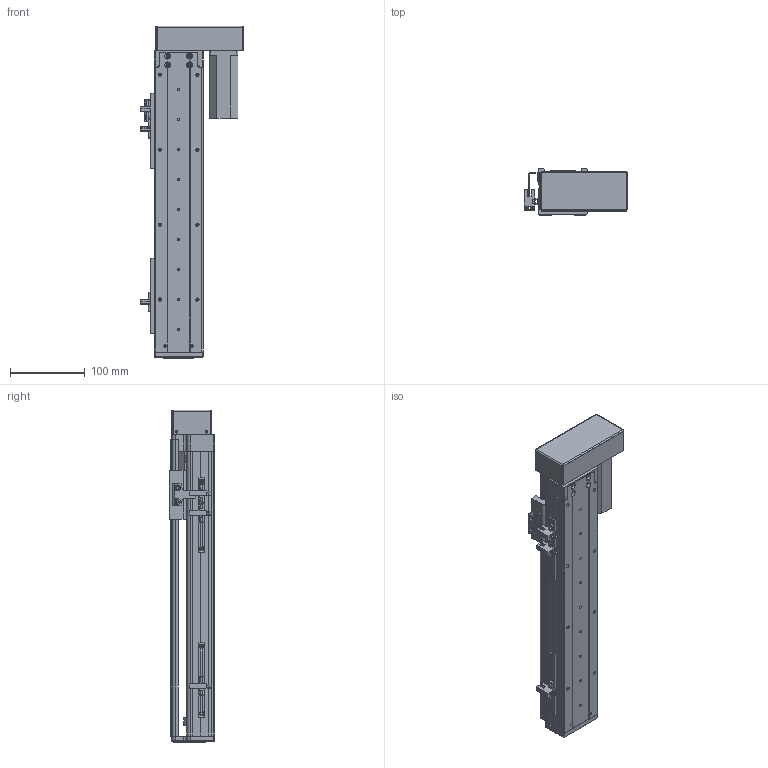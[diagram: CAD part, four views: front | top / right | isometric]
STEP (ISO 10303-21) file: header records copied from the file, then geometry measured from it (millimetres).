
FILE_DESCRIPTION (( 'STEP AP203' ), '1' );
FILE_NAME ('RY60-L1210-300-RK.SLDASM_250.step', '2021-02-20T06:52:30', ( '盈信电脑' ), ( '东莞市道滘镇水果街19号' ), 'SwSTEP 2.0', 'SolidWorks 2012', '' );
FILE_SCHEMA (( 'CONFIG_CONTROL_DESIGN' ));
Length unit declared in the file: millimetre
Products named in the file (13): RY60-L1210-300-RK.SLDASM_250; 覜茼ん672; 672嫖萇羲壽假蚾釱; RY60酘衵殏萇儂欶; 侂狟100W; RY80俋离覜茼え; RY60转折电机端支撑座; RY60左右折电机安装板; 滅袉蝶18-10; RY60綴裔啣; RY60-300倰第菁釱-RK_250; RY60臏賑輸; RY60-300倰第裔啣-RK_250
Assembly tree (18 placements, depth 2):
  RY60-L1210-300-RK.SLDASM_250
    RY60-300倰第菁釱-RK_250
    RY60臏賑輸
    RY60-300倰第裔啣-RK_250
    RY60綴裔啣
    滅袉蝶18-10  x4
    RY60转折电机端支撑座
    RY60左右折电机安装板
    侂狟100W
    RY60酘衵殏萇儂欶
    RY80俋离覜茼え
    672嫖萇羲壽假蚾釱  x2
    覜茼ん672  x3
Bounding box: 137.9 x 61 x 443 mm (x, y, z)
Volume: 680469.8 mm3; surface area: 333861.6 mm2
Topology: 18 solids, 18 shells, 1382 faces, 3836 edges, 2458 vertices
Faces by surface type: plane 697, cylinder 566, cone 102, bspline 17
Entity records: 40447 total; most frequent: CARTESIAN_POINT 9281, ORIENTED_EDGE 6252, DIRECTION 6098, EDGE_CURVE 3126, AXIS2_PLACEMENT_3D 2085, VERTEX_POINT 2038, LINE 1928, VECTOR 1928
